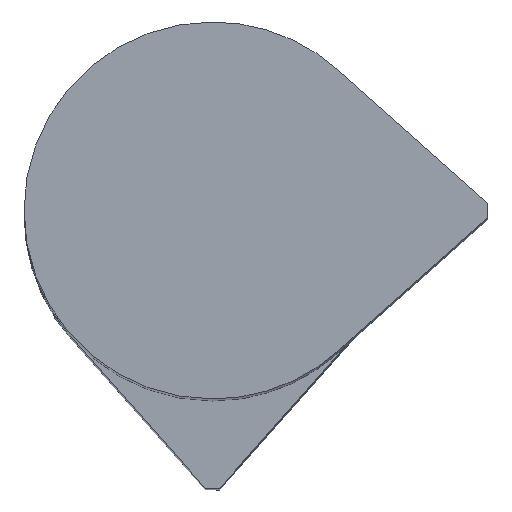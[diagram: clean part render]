
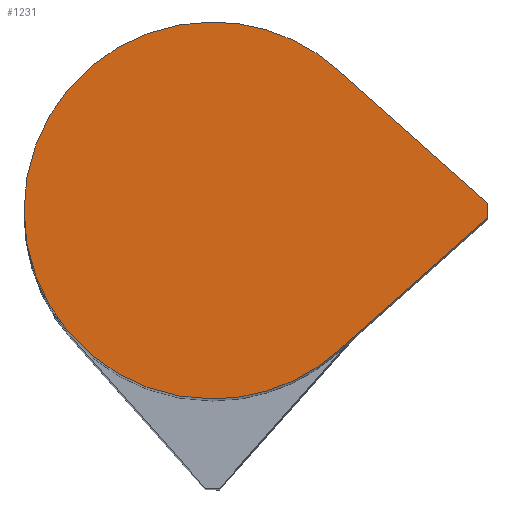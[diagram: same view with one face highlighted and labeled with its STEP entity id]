
A CAD part, top view. The second image highlights one B-rep face of the part: STEP entity #1231.
In plain terms, the highlighted planar face has unit normal (0, 0, 1) as drawn and (0, 0, -1) by its records, which use the part's own axes.
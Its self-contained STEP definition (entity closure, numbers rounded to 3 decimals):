
#4 = CARTESIAN_POINT ( 'NONE',  ( 0., 0., 0. ) ) ;
#5 = EDGE_CURVE ( 'NONE', #268, #1669, #780, .T. ) ;
#45 = DIRECTION ( 'NONE',  ( 0., 0., 1. ) ) ;
#54 = LINE ( 'NONE', #1019, #1452 ) ;
#75 = CARTESIAN_POINT ( 'NONE',  ( 0., 0., 0. ) ) ;
#153 = EDGE_LOOP ( 'NONE', ( #887, #821, #266, #221, #401, #530 ) ) ;
#183 = CIRCLE ( 'NONE', #1422, 6.5 ) ;
#189 = PLANE ( 'NONE',  #1440 ) ;
#202 = CARTESIAN_POINT ( 'NONE',  ( -0.25, -9.5, 0. ) ) ;
#216 = DIRECTION ( 'NONE',  ( 0.665, -0.747, 0. ) ) ;
#221 = ORIENTED_EDGE ( 'NONE', *, *, #339, .F. ) ;
#223 = EDGE_CURVE ( 'NONE', #1667, #268, #1711, .T. ) ;
#237 = CARTESIAN_POINT ( 'NONE',  ( -0.25, -9.5, 0. ) ) ;
#266 = ORIENTED_EDGE ( 'NONE', *, *, #984, .F. ) ;
#268 = VERTEX_POINT ( 'NONE', #767 ) ;
#339 = EDGE_CURVE ( 'NONE', #1669, #637, #867, .T. ) ;
#356 = CARTESIAN_POINT ( 'NONE',  ( 0., 0., 0. ) ) ;
#374 = DIRECTION ( 'NONE',  ( 0., 0., 1. ) ) ;
#385 = DIRECTION ( 'NONE',  ( 1., 0., 0. ) ) ;
#401 = ORIENTED_EDGE ( 'NONE', *, *, #5, .F. ) ;
#402 = DIRECTION ( 'NONE',  ( 0., 0., 1. ) ) ;
#530 = ORIENTED_EDGE ( 'NONE', *, *, #223, .F. ) ;
#553 = DIRECTION ( 'NONE',  ( 1., 0., 0. ) ) ;
#637 = VERTEX_POINT ( 'NONE', #237 ) ;
#738 = CARTESIAN_POINT ( 'NONE',  ( 0.25, -9.5, 0. ) ) ;
#767 = CARTESIAN_POINT ( 'NONE',  ( -6.5, 0., 0. ) ) ;
#780 = CIRCLE ( 'NONE', #1139, 6.5 ) ;
#785 = VECTOR ( 'NONE', #216, 1000. ) ;
#821 = ORIENTED_EDGE ( 'NONE', *, *, #1662, .F. ) ;
#826 = VECTOR ( 'NONE', #1295, 1000. ) ;
#829 = EDGE_CURVE ( 'NONE', #1641, #1667, #183, .T. ) ;
#867 = LINE ( 'NONE', #202, #785 ) ;
#887 = ORIENTED_EDGE ( 'NONE', *, *, #829, .F. ) ;
#950 = CARTESIAN_POINT ( 'NONE',  ( 0., 0., 0. ) ) ;
#981 = LINE ( 'NONE', #738, #826 ) ;
#984 = EDGE_CURVE ( 'NONE', #637, #1117, #981, .T. ) ;
#999 = CARTESIAN_POINT ( 'NONE',  ( 4.857, -4.32, 0. ) ) ;
#1019 = CARTESIAN_POINT ( 'NONE',  ( 4.857, -4.32, 0. ) ) ;
#1054 = CARTESIAN_POINT ( 'NONE',  ( 0.25, -9.5, 0. ) ) ;
#1092 = AXIS2_PLACEMENT_3D ( 'NONE', #75, #45, #1688 ) ;
#1117 = VERTEX_POINT ( 'NONE', #1054 ) ;
#1139 = AXIS2_PLACEMENT_3D ( 'NONE', #950, #402, #553 ) ;
#1182 = DIRECTION ( 'NONE',  ( 0.665, 0.747, 0. ) ) ;
#1231 = ADVANCED_FACE ( 'NONE', ( #1698 ), #189, .F. ) ;
#1295 = DIRECTION ( 'NONE',  ( 1., 0., 0. ) ) ;
#1305 = CARTESIAN_POINT ( 'NONE',  ( 6.5, 0., 0. ) ) ;
#1348 = CARTESIAN_POINT ( 'NONE',  ( -4.857, -4.32, 0. ) ) ;
#1422 = AXIS2_PLACEMENT_3D ( 'NONE', #4, #1767, #1773 ) ;
#1440 = AXIS2_PLACEMENT_3D ( 'NONE', #356, #374, #385 ) ;
#1452 = VECTOR ( 'NONE', #1182, 1000. ) ;
#1641 = VERTEX_POINT ( 'NONE', #999 ) ;
#1662 = EDGE_CURVE ( 'NONE', #1117, #1641, #54, .T. ) ;
#1667 = VERTEX_POINT ( 'NONE', #1305 ) ;
#1669 = VERTEX_POINT ( 'NONE', #1348 ) ;
#1688 = DIRECTION ( 'NONE',  ( 1., 0., 0. ) ) ;
#1698 = FACE_OUTER_BOUND ( 'NONE', #153, .T. ) ;
#1711 = CIRCLE ( 'NONE', #1092, 6.5 ) ;
#1767 = DIRECTION ( 'NONE',  ( 0., 0., 1. ) ) ;
#1773 = DIRECTION ( 'NONE',  ( 1., 0., 0. ) ) ;
